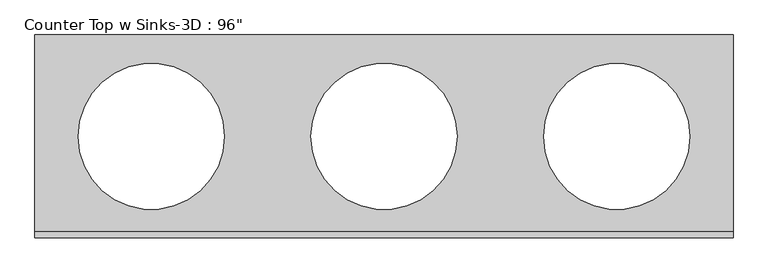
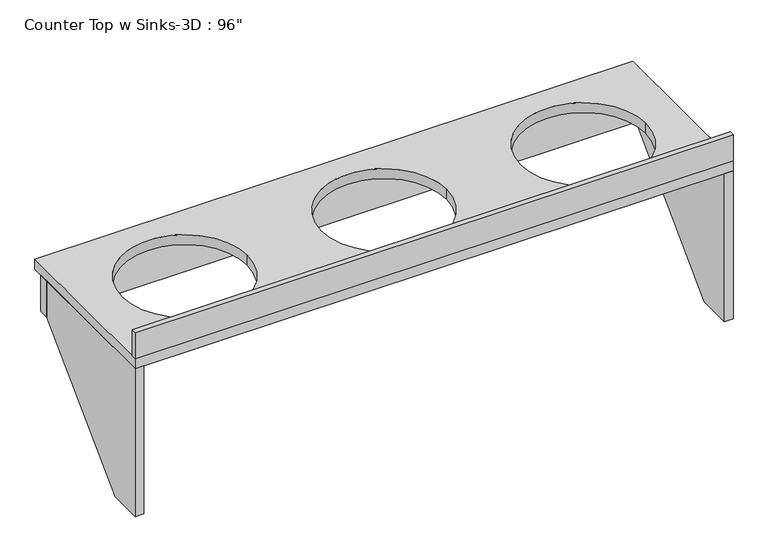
"""IFC4 building model written with IfcOpenShell, lengths in millimetres: furniture geometry."""

from ifc_helpers import new_model, si_unit, point, frame, frame_2d, origin, place, context, project, spatial, polyline, circle_curve, trimmed, segment, composite_curve, outline, extrude, source, transform, mapped, element, save


def furniture_b8c66f15(model_context):
    return source(origin(), model_context, "Body", "SweptSolid", [
        extrude(outline(polyline([(171.45, 825.5), (730.25, 825.5), (730.25, 685.8), (298.45, 254.0), (171.45, 254.0), (171.45, 825.5)])), frame((-1116.1103038, 0.0, 0.0), z_axis=(1.0, 0.0, 0.0), x_axis=(0.0, 1.0, 0.0)), (0.0, 0.0, 1.0), 31.75),
        extrude(outline(polyline([(171.45, 825.5), (730.25, 825.5), (730.25, 685.8), (298.45, 254.0), (171.45, 254.0), (171.45, 825.5)])), frame((1036.5396962, 0.0, 0.0), z_axis=(1.0, 0.0, 0.0), x_axis=(0.0, 1.0, 0.0)), (0.0, 0.0, 1.0), 31.75),
        extrude(outline(polyline([(-1116.1103038, 730.25), (-1116.1103038, 768.35), (1068.2896962, 768.35), (1068.2896962, 730.25), (-1116.1103038, 730.25)])), frame((0.0, 0.0, 685.8), z_axis=(0.0, 0.0, 1.0), x_axis=(1.0, 0.0, 0.0)), (0.0, 0.0, 1.0), 139.7),
        extrude(outline(polyline([(1068.2896962, 171.45), (-1116.1103038, 171.45), (-1116.1103038, 190.5), (1068.2896962, 190.5), (1068.2896962, 171.45)])), frame((0.0, 0.0, 863.6), z_axis=(0.0, 0.0, 1.0), x_axis=(1.0, 0.0, 0.0)), (0.0, 0.0, 1.0), 101.6),
        extrude(outline(polyline([(1068.2896962, 171.45), (-1116.1103038, 171.45), (-1116.1103038, 806.45), (1068.2896962, 806.45), (1068.2896962, 171.45)]), holes=[composite_curve([segment(trimmed(circle_curve(frame_2d((-752.0436371, 488.95)), 228.6), [point((-980.6436371, 488.95))], [point((-523.4436371, 488.95))], True, "CARTESIAN"), True, "CONTINUOUS"), segment(trimmed(circle_curve(frame_2d((-752.0436371, 488.95)), 228.6), [point((-523.4436371, 488.95))], [point((-980.6436371, 488.95))], True, "CARTESIAN"), True, "CONTINUOUS")], self_intersect=False), composite_curve([segment(trimmed(circle_curve(frame_2d((704.2230295, 488.95)), 228.6), [point((475.6230295, 488.95))], [point((932.8230295, 488.95))], True, "CARTESIAN"), True, "CONTINUOUS"), segment(trimmed(circle_curve(frame_2d((704.2230295, 488.95)), 228.6), [point((932.8230295, 488.95))], [point((475.6230295, 488.95))], True, "CARTESIAN"), True, "CONTINUOUS")], self_intersect=False), composite_curve([segment(trimmed(circle_curve(frame_2d((-23.9103038, 488.95)), 228.6), [point((-252.5103038, 488.95))], [point((204.6896962, 488.95))], True, "CARTESIAN"), True, "CONTINUOUS"), segment(trimmed(circle_curve(frame_2d((-23.9103038, 488.95)), 228.6), [point((204.6896962, 488.95))], [point((-252.5103038, 488.95))], True, "CARTESIAN"), True, "CONTINUOUS")], self_intersect=False)]), frame((0.0, 0.0, 825.5), z_axis=(0.0, 0.0, 1.0), x_axis=(1.0, 0.0, 0.0)), (0.0, 0.0, 1.0), 38.1),
    ])


if __name__ == "__main__":
    model = new_model("IFC4")
    model_context = context("Model", 3, world=origin())
    ifc_project = project(units=[si_unit("LENGTHUNIT", "METRE", prefix="MILLI")], contexts=[model_context])
    site = spatial("IfcSite", under=ifc_project)
    building = spatial("IfcBuilding", under=site)
    placement = place(None, origin())
    furniture_shape = furniture_b8c66f15(model_context)
    element("IfcFurniture", 1, ObjectType="Counter Top w Sinks-3D : 96\"", at=placement, inside=building, context=model_context, shape_type="MappedRepresentation", body=[
        mapped(furniture_shape, transform((0.0, 0.0, 0.0), x_axis=(1.0, 0.0, 0.0), y_axis=(0.0, 1.0, 0.0), z_axis=(0.0, 0.0, 1.0))),
    ])
    save(model, "model.ifc")
